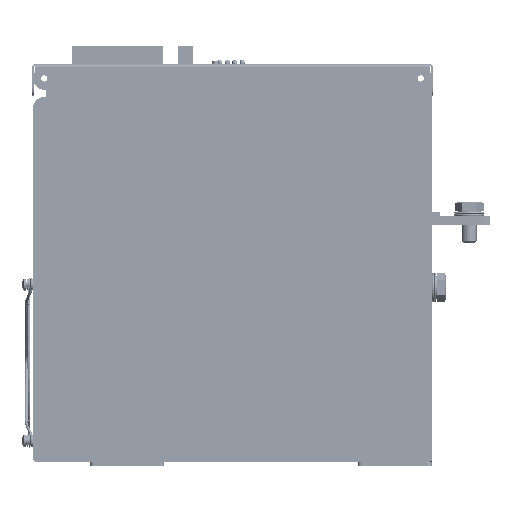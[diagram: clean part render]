
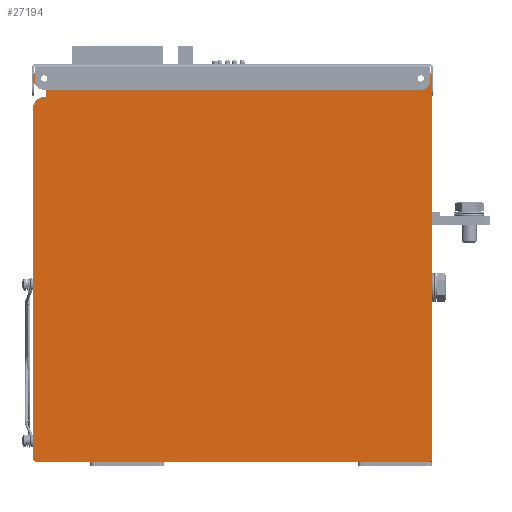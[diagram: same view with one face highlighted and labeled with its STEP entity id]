
A CAD part, left-side view. The second image highlights one B-rep face of the part: STEP entity #27194.
In plain terms, the highlighted planar face has unit normal (-1, 0, 0).
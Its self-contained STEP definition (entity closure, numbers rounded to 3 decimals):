
#27194=ADVANCED_FACE('',(#71193,#71195,#71197),#71199,.F.);
#71193=FACE_BOUND('',#71194,.T.);
#71194=EDGE_LOOP('',(#116223,#116224,#116225,#116226,#116227,#116228,#116229,#116230,
#116231,#116232,#116233,#116234,#116235,#116236,#116237));
#71195=FACE_BOUND('',#71196,.T.);
#71196=EDGE_LOOP('',(#116238));
#71197=FACE_BOUND('',#71198,.T.);
#71198=EDGE_LOOP('',(#116239));
#71199=PLANE('',#71200);
#71200=AXIS2_PLACEMENT_3D('',#71201,#71202,#71203);
#71201=CARTESIAN_POINT('',(-180.852,12.652,75.711));
#71202=DIRECTION('',(1.,0.,0.));
#71203=DIRECTION('',(0.,1.,0.));
#116223=ORIENTED_EDGE('',*,*,#138197,.T.);
#116224=ORIENTED_EDGE('',*,*,#138198,.F.);
#116225=ORIENTED_EDGE('',*,*,#137251,.T.);
#116226=ORIENTED_EDGE('',*,*,#138195,.F.);
#116227=ORIENTED_EDGE('',*,*,#138199,.F.);
#116228=ORIENTED_EDGE('',*,*,#138200,.F.);
#116229=ORIENTED_EDGE('',*,*,#138201,.F.);
#116230=ORIENTED_EDGE('',*,*,#138202,.F.);
#116231=ORIENTED_EDGE('',*,*,#138203,.T.);
#116232=ORIENTED_EDGE('',*,*,#138204,.T.);
#116233=ORIENTED_EDGE('',*,*,#138205,.T.);
#116234=ORIENTED_EDGE('',*,*,#138206,.F.);
#116235=ORIENTED_EDGE('',*,*,#138207,.F.);
#116236=ORIENTED_EDGE('',*,*,#138208,.F.);
#116237=ORIENTED_EDGE('',*,*,#138209,.F.);
#116238=ORIENTED_EDGE('',*,*,#138210,.T.);
#116239=ORIENTED_EDGE('',*,*,#138211,.T.);
#137251=EDGE_CURVE('',#158050,#158048,#158051,.F.);
#138195=EDGE_CURVE('',#159825,#158048,#159827,.F.);
#138197=EDGE_CURVE('',#159829,#159830,#159831,.F.);
#138198=EDGE_CURVE('',#158050,#159830,#159832,.T.);
#138199=EDGE_CURVE('',#159833,#159825,#159834,.T.);
#138200=EDGE_CURVE('',#159835,#159833,#159836,.F.);
#138201=EDGE_CURVE('',#159837,#159835,#159838,.T.);
#138202=EDGE_CURVE('',#159839,#159837,#159840,.F.);
#138203=EDGE_CURVE('',#159839,#159841,#159842,.T.);
#138204=EDGE_CURVE('',#159841,#159843,#159844,.T.);
#138205=EDGE_CURVE('',#159843,#159845,#159846,.T.);
#138206=EDGE_CURVE('',#159847,#159845,#159848,.F.);
#138207=EDGE_CURVE('',#159849,#159847,#159850,.T.);
#138208=EDGE_CURVE('',#159851,#159849,#159852,.F.);
#138209=EDGE_CURVE('',#159829,#159851,#159853,.T.);
#138210=EDGE_CURVE('',#159854,#159854,#159855,.T.);
#138211=EDGE_CURVE('',#159856,#159856,#159857,.T.);
#158048=VERTEX_POINT('',#223314);
#158050=VERTEX_POINT('',#223318);
#158051=LINE('',#223319,#223320);
#159825=VERTEX_POINT('',#227392);
#159827=CIRCLE('',#227396,2.);
#159829=VERTEX_POINT('',#227404);
#159830=VERTEX_POINT('',#227405);
#159831=LINE('',#227406,#227407);
#159832=LINE('',#227409,#227410);
#159833=VERTEX_POINT('',#227412);
#159834=LINE('',#227413,#227414);
#159835=VERTEX_POINT('',#227416);
#159836=CIRCLE('',#227417,7.5);
#159837=VERTEX_POINT('',#227421);
#159838=LINE('',#227422,#227423);
#159839=VERTEX_POINT('',#227425);
#159840=CIRCLE('',#227426,7.5);
#159841=VERTEX_POINT('',#227430);
#159842=LINE('',#227431,#227432);
#159843=VERTEX_POINT('',#227434);
#159844=LINE('',#227435,#227436);
#159845=VERTEX_POINT('',#227438);
#159846=LINE('',#227439,#227440);
#159847=VERTEX_POINT('',#227442);
#159848=CIRCLE('',#227443,7.5);
#159849=VERTEX_POINT('',#227447);
#159850=LINE('',#227448,#227449);
#159851=VERTEX_POINT('',#227451);
#159852=CIRCLE('',#227452,2.);
#159853=LINE('',#227456,#227457);
#159854=VERTEX_POINT('',#227459);
#159855=CIRCLE('',#227460,3.05);
#159856=VERTEX_POINT('',#227464);
#159857=CIRCLE('',#227465,3.05);
#223314=CARTESIAN_POINT('',(-180.852,-119.348,-56.789));
#223318=CARTESIAN_POINT('',(-180.852,-71.348,-56.789));
#223319=CARTESIAN_POINT('',(-180.852,-119.348,-56.789));
#223320=VECTOR('',#223321,1.);
#223321=DIRECTION('',(0.,1.,0.));
#227392=CARTESIAN_POINT('',(-180.852,-121.348,-54.789));
#227396=AXIS2_PLACEMENT_3D('',#227397,#227398,#227399);
#227397=CARTESIAN_POINT('',(-180.852,-119.348,-54.789));
#227398=DIRECTION('',(-1.,0.,0.));
#227399=DIRECTION('',(0.,0.,-1.));
#227404=CARTESIAN_POINT('',(-180.852,108.642,-56.789));
#227405=CARTESIAN_POINT('',(-180.852,58.642,-56.789));
#227406=CARTESIAN_POINT('',(-180.852,58.642,-56.789));
#227407=VECTOR('',#227408,1.);
#227408=DIRECTION('',(0.,1.,0.));
#227409=CARTESIAN_POINT('',(-180.852,-71.348,-56.789));
#227410=VECTOR('',#227411,1.);
#227411=DIRECTION('',(0.,1.,0.));
#227412=CARTESIAN_POINT('',(-180.852,-121.348,200.711));
#227413=CARTESIAN_POINT('',(-180.852,-121.348,200.711));
#227414=VECTOR('',#227415,1.);
#227415=DIRECTION('',(0.,0.,-1.));
#227416=CARTESIAN_POINT('',(-180.852,-113.848,208.211));
#227417=AXIS2_PLACEMENT_3D('',#227418,#227419,#227420);
#227418=CARTESIAN_POINT('',(-180.852,-113.848,200.711));
#227419=DIRECTION('',(-1.,0.,0.));
#227420=DIRECTION('',(0.,-1.,0.));
#227421=CARTESIAN_POINT('',(-180.852,139.152,208.211));
#227422=CARTESIAN_POINT('',(-180.852,139.152,208.211));
#227423=VECTOR('',#227424,1.);
#227424=DIRECTION('',(0.,-1.,0.));
#227425=CARTESIAN_POINT('',(-180.852,139.152,193.211));
#227426=AXIS2_PLACEMENT_3D('',#227427,#227428,#227429);
#227427=CARTESIAN_POINT('',(-180.852,139.152,200.711));
#227428=DIRECTION('',(-1.,0.,0.));
#227429=DIRECTION('',(0.,0.,1.));
#227430=CARTESIAN_POINT('',(-180.852,138.152,193.211));
#227431=CARTESIAN_POINT('',(-180.852,139.152,193.211));
#227432=VECTOR('',#227433,1.);
#227433=DIRECTION('',(0.,-1.,0.));
#227434=CARTESIAN_POINT('',(-180.852,138.152,188.211));
#227435=CARTESIAN_POINT('',(-180.852,138.152,193.211));
#227436=VECTOR('',#227437,1.);
#227437=DIRECTION('',(0.,0.,-1.));
#227438=CARTESIAN_POINT('',(-180.852,139.152,188.211));
#227439=CARTESIAN_POINT('',(-180.852,138.152,188.211));
#227440=VECTOR('',#227441,1.);
#227441=DIRECTION('',(0.,1.,0.));
#227442=CARTESIAN_POINT('',(-180.852,146.652,180.711));
#227443=AXIS2_PLACEMENT_3D('',#227444,#227445,#227446);
#227444=CARTESIAN_POINT('',(-180.852,139.152,180.711));
#227445=DIRECTION('',(-1.,0.,0.));
#227446=DIRECTION('',(0.,0.,1.));
#227447=CARTESIAN_POINT('',(-180.852,146.652,-54.789));
#227448=CARTESIAN_POINT('',(-180.852,146.652,-54.789));
#227449=VECTOR('',#227450,1.);
#227450=DIRECTION('',(0.,0.,1.));
#227451=CARTESIAN_POINT('',(-180.852,144.652,-56.789));
#227452=AXIS2_PLACEMENT_3D('',#227453,#227454,#227455);
#227453=CARTESIAN_POINT('',(-180.852,144.652,-54.789));
#227454=DIRECTION('',(-1.,0.,0.));
#227455=DIRECTION('',(0.,1.,0.));
#227456=CARTESIAN_POINT('',(-180.852,108.642,-56.789));
#227457=VECTOR('',#227458,1.);
#227458=DIRECTION('',(0.,1.,0.));
#227459=CARTESIAN_POINT('',(-180.852,142.202,200.711));
#227460=AXIS2_PLACEMENT_3D('',#227461,#227462,#227463);
#227461=CARTESIAN_POINT('',(-180.852,139.152,200.711));
#227462=DIRECTION('',(1.,0.,0.));
#227463=DIRECTION('',(0.,1.,0.));
#227464=CARTESIAN_POINT('',(-180.852,-110.798,200.711));
#227465=AXIS2_PLACEMENT_3D('',#227466,#227467,#227468);
#227466=CARTESIAN_POINT('',(-180.852,-113.848,200.711));
#227467=DIRECTION('',(1.,0.,0.));
#227468=DIRECTION('',(0.,1.,0.));
